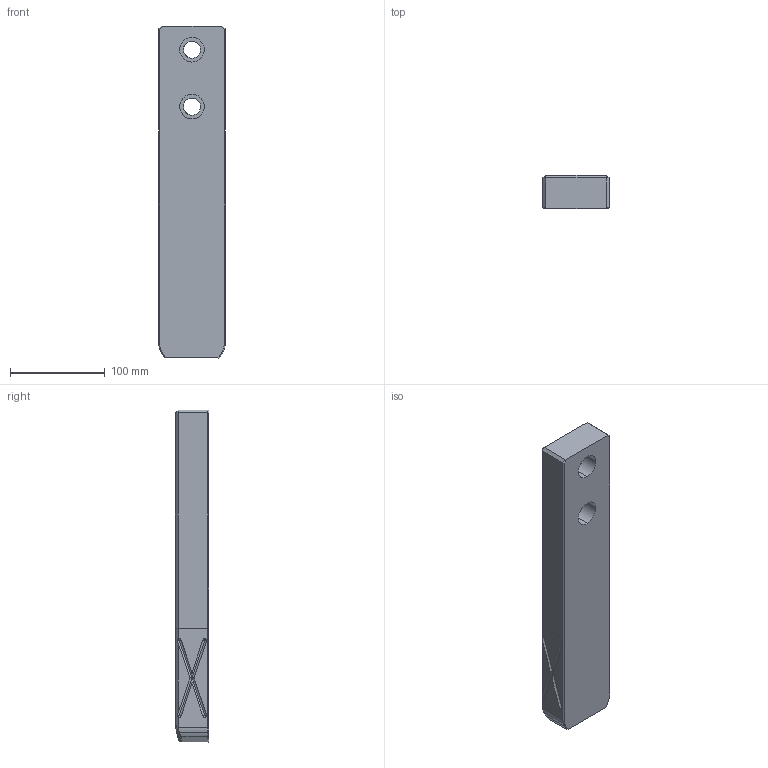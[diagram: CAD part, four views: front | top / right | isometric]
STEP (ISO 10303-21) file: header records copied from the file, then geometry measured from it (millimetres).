
FILE_DESCRIPTION(('CATIA V5 STEP Exchange'),'2;1');
FILE_NAME('D:\temp\color-modify-100929\GWB_6644-6654_R00\3d_gwb70-120-350_6647_r00.stp','2010-09-29T05:17:02+00:00',('none'),('none'),'CATIA Version 5 Release 18 SP 5 (IN-10)','CATIA V5 STEP AP214','none');
FILE_SCHEMA(('AUTOMOTIVE_DESIGN { 1 0 10303 214 1 1 1 1 }'));
Length unit declared in the file: millimetre
Products named in the file (1): GWB70-120-350
Bounding box: 70 x 35 x 350 mm (x, y, z)
Volume: 814763.1 mm3; surface area: 81950 mm2
Topology: 1 solids, 1 shells, 122 faces, 321 edges, 181 vertices
Faces by surface type: cylinder 50, plane 36, revolution 24, cone 8, bspline 4
Entity records: 4465 total; most frequent: CARTESIAN_POINT 1851, ORIENTED_EDGE 594, DIRECTION 391, EDGE_CURVE 297, VERTEX_POINT 181, B_SPLINE_CURVE_WITH_KNOTS 142, VECTOR 140, LINE 140
